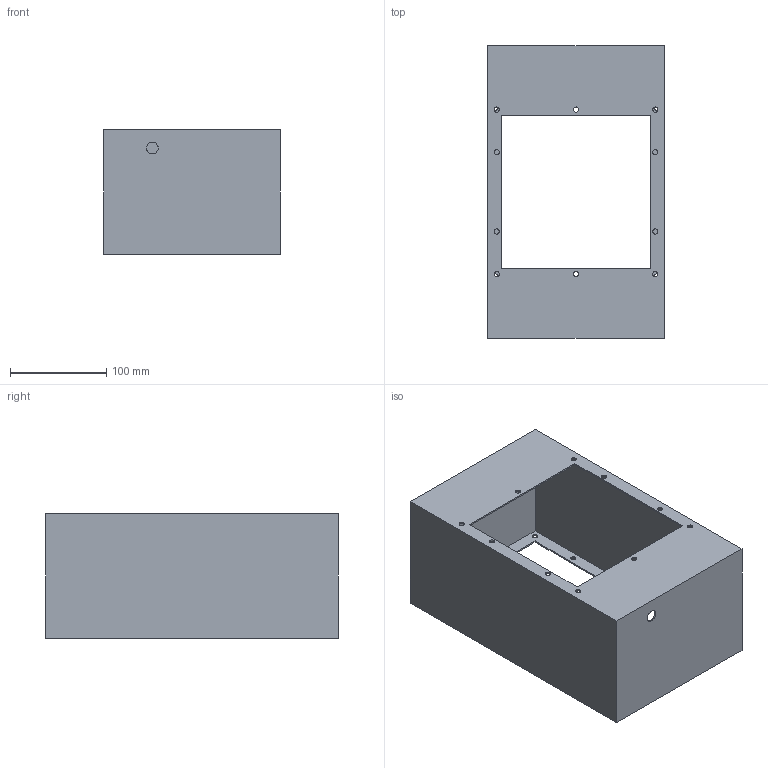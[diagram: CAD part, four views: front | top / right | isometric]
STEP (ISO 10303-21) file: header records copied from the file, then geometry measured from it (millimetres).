
FILE_DESCRIPTION (( 'STEP AP203' ), '1' );
FILE_NAME ('140EF FRAME.STEP', '2013-10-02T13:15:35', ( 'Admin' ), ( '' ), 'SwSTEP 2.0', 'SolidWorks 2012', '' );
FILE_SCHEMA (( 'CONFIG_CONTROL_DESIGN' ));
Length unit declared in the file: inch
Products named in the file (1): 140EF FRAME
Bounding box: 184.15 x 304.8 x 129.54 mm (x, y, z)
Volume: 254359.9 mm3; surface area: 336727.8 mm2
Topology: 1 solids, 1 shells, 106 faces, 306 edges, 204 vertices
Faces by surface type: cylinder 66, plane 40
Entity records: 3717 total; most frequent: DIRECTION 652, CARTESIAN_POINT 617, ORIENTED_EDGE 612, EDGE_CURVE 306, AXIS2_PLACEMENT_3D 239, VERTEX_POINT 204, LINE 174, VECTOR 174
